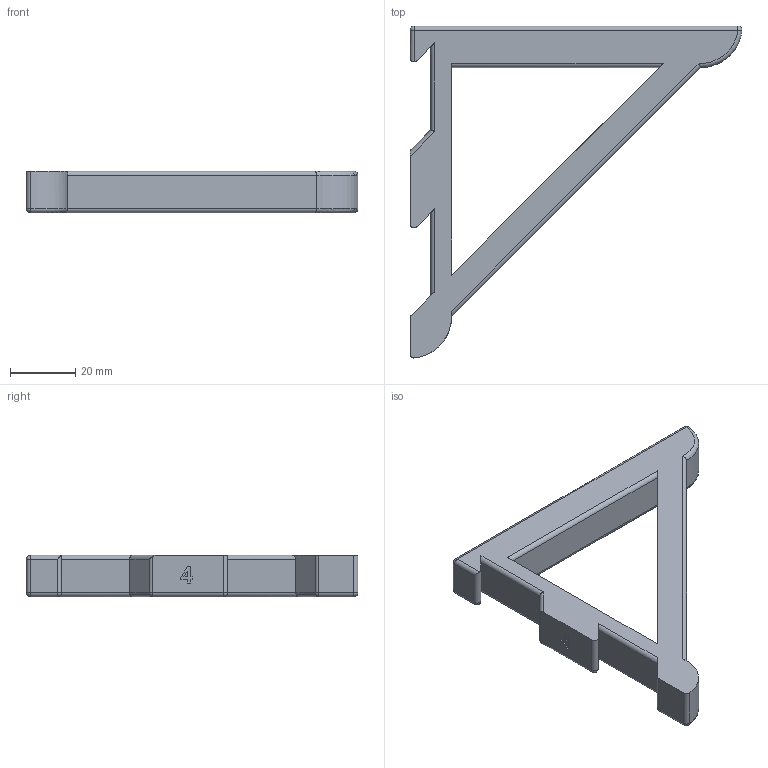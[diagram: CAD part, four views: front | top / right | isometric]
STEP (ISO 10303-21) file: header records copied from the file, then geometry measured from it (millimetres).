
FILE_DESCRIPTION(/* description */ ('STEP AP242','CAx-IF Rec.Pracs.---Representation and Presentation of Product Manufacturing Information (PMI)---4.0---2014-10-13','CAx-IF Rec.Pracs.---3D Tessellated Geometry---0.4---2014-09-14','2;1'),/* implementation_level */ '2;1');
FILE_NAME(/* name */ '677d7abeb77be45bfcd6ca36',/* time_stamp */ '2025-01-07T19:04:31Z',/* author */ (''),/* organization */ (''),/* preprocessor_version */ 'ST-DEVELOPER v20',/* originating_system */ 'ONSHAPE BY PTC INC, 1.191',/* authorisation */ ' ');
FILE_SCHEMA (('AP242_MANAGED_MODEL_BASED_3D_ENGINEERING_MIM_LF { 1 0 10303 442 1 1 4 }'));
Length unit declared in the file: metre
Products named in the file (1): Shelf Bracket-4
Bounding box: 101.53 x 101.53 x 12.7 mm (x, y, z)
Volume: 36614.4 mm3; surface area: 12868.7 mm2
Topology: 1 solids, 1 shells, 75 faces, 184 edges, 104 vertices
Faces by surface type: plane 33, cylinder 30, sphere 9, torus 3
Entity records: 2133 total; most frequent: DIRECTION 377, CARTESIAN_POINT 371, ORIENTED_EDGE 350, EDGE_CURVE 175, AXIS2_PLACEMENT_3D 130, LINE 117, VECTOR 117, VERTEX_POINT 104
